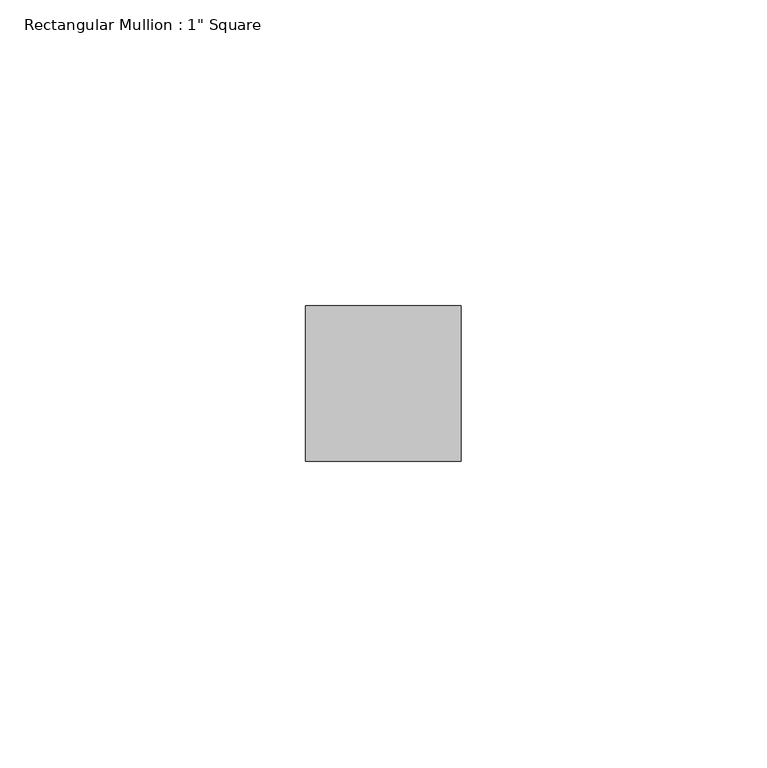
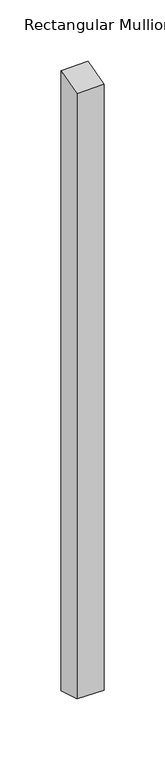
"""IFC4 building model written with IfcOpenShell, lengths in millimetres: member geometry."""

import ifcopenshell
import ifcopenshell.guid

model = None  # the IFC model being written
_history = None  # IfcOwnerHistory: only IFC2X3 demands one
_inside = {}  # id of a spatial element -> (the spatial element, [elements in it])
_under = {}  # id of a project, library or spatial element -> (it, [spatial elements below it])
_declared = {}  # id of a project -> (the project, [libraries it declares])
_typed = {}  # id of a type object -> (the type object, [elements of that type])
_made_of = {}  # id of a material, layer set ... -> (it, [elements and type objects made of it])


def new_model(schema):
    """Start an empty IFC model of exactly this schema.

    Asked for "IFC4X3", IfcOpenShell would pick the latest addendum, in which some entities
    have other attributes; the version numbers below select the first issue.
    IFC2X3 requires an IfcOwnerHistory on every rooted entity: one is made here for all.
    """
    global model, _history
    if schema == "IFC4X3":
        model = ifcopenshell.file(schema_version=(4, 3, 0, 0))
    else:
        model = ifcopenshell.file(schema=schema)
    _inside.clear()
    _under.clear()
    _declared.clear()
    _typed.clear()
    _made_of.clear()
    _history = None
    if model.schema == "IFC2X3":
        org = make("IfcOrganization", Name="unknown")
        user = make(
            "IfcPersonAndOrganization",
            ThePerson=make("IfcPerson", FamilyName="unknown"),
            TheOrganization=org,
        )
        app = make(
            "IfcApplication",
            ApplicationDeveloper=org,
            Version="unknown",
            ApplicationFullName="unknown",
            ApplicationIdentifier="unknown",
        )
        _history = make(
            "IfcOwnerHistory",
            OwningUser=user,
            OwningApplication=app,
            ChangeAction="ADDED",
            CreationDate=0,
        )
    return model


def make(cls, **values):
    """One entity of the class cls with the attributes given. An attribute that is None is left unset."""
    return model.create_entity(
        cls, **{name: value for name, value in values.items() if value is not None}
    )


def rooted(cls, **values):
    """An entity with a GlobalId (a new one), such as an element, a storey or a relation."""
    return make(cls, GlobalId=ifcopenshell.guid.new(), OwnerHistory=_history, **values)


def si_unit(unit_type, name, prefix=None):
    """IfcSIUnit, for example si_unit("LENGTHUNIT", "METRE", prefix="MILLI")."""
    return make("IfcSIUnit", UnitType=unit_type, Prefix=prefix, Name=name)


def assignment(units):
    """IfcUnitAssignment: the units of a project."""
    return None if units is None else make("IfcUnitAssignment", Units=units)


def point(xyz):
    """IfcCartesianPoint."""
    return None if xyz is None else make("IfcCartesianPoint", Coordinates=xyz)


def direction(xyz):
    """IfcDirection."""
    return None if xyz is None else make("IfcDirection", DirectionRatios=xyz)


def frame(location, z_axis=None, x_axis=None):
    """IfcAxis2Placement3D, a coordinate frame: its origin and axes. An axis left out is left unset."""
    return make(
        "IfcAxis2Placement3D",
        Location=point(location),
        Axis=direction(z_axis),
        RefDirection=direction(x_axis),
    )


def origin():
    """The frame at (0, 0, 0) with its axes left unset."""
    return frame((0.0, 0.0, 0.0))


def place(relative_to, where):
    """IfcLocalPlacement: puts the frame where relative to a parent placement (None: the world)."""
    return make(
        "IfcLocalPlacement", PlacementRelTo=relative_to, RelativePlacement=where
    )


def context(
    kind, dimensions, precision=None, world=None, true_north=None, identifier=None
):
    """IfcGeometricRepresentationContext, for example the 3D "Model" context."""
    return make(
        "IfcGeometricRepresentationContext",
        ContextIdentifier=identifier,
        ContextType=kind,
        CoordinateSpaceDimension=dimensions,
        Precision=precision,
        WorldCoordinateSystem=world,
        TrueNorth=true_north,
    )


def project(units=None, contexts=None):
    """IfcProject with its units and contexts."""
    return rooted(
        "IfcProject",
        Name="project",
        RepresentationContexts=contexts,
        UnitsInContext=assignment(units),
    )


def spatial(cls, under=None, at=None, **own):
    """A site, building, storey or space (cls), placed at a placement, below another one or the project."""
    s = rooted(cls, ObjectPlacement=at, **own)
    if under is not None:
        _under.setdefault(under.id(), (under, []))[1].append(s)
    return s


def faces_of(points, faces, orient=None, outer=None):
    """IfcFace entities. A face is a list of loops; a loop is a list of indices into points, from 0.

    orient and outer hold one flag for each loop. By default every Orientation is true, the
    first loop of a face is its IfcFaceOuterBound and the others are IfcFaceBound.
    """
    made = []
    for i, loops in enumerate(faces):
        bounds = []
        for j, loop in enumerate(loops):
            is_outer = j == 0 if outer is None else outer[i][j]
            bounds.append(
                make(
                    "IfcFaceOuterBound" if is_outer else "IfcFaceBound",
                    Bound=make("IfcPolyLoop", Polygon=[points[k] for k in loop]),
                    Orientation=True if orient is None else orient[i][j],
                )
            )
        made.append(make("IfcFace", Bounds=bounds))
    return made


def faceted_brep(points, faces, orient=None, outer=None, voids=None):
    """IfcFacetedBrep: a solid bounded by flat faces; with voids (closed shells), ...WithVoids."""
    shared = [point(p) for p in points]
    hull = make("IfcClosedShell", CfsFaces=faces_of(shared, faces, orient, outer))
    if voids is None:
        return make("IfcFacetedBrep", Outer=hull)
    return make(
        "IfcFacetedBrepWithVoids",
        Outer=hull,
        Voids=[
            make(cls, CfsFaces=faces_of(shared, fs, o, b)) for cls, fs, o, b in voids
        ],
    )


def shape(context_of_items, identifier, shape_type, items):
    """IfcShapeRepresentation: the items that make up one representation, for example the "Body"."""
    return make(
        "IfcShapeRepresentation",
        ContextOfItems=context_of_items,
        RepresentationIdentifier=identifier,
        RepresentationType=shape_type,
        Items=items,
    )


def source(mapping_origin, context_of_items, identifier, shape_type, items):
    """IfcRepresentationMap: a shape defined once, which mapped items show again and again."""
    return make(
        "IfcRepresentationMap",
        MappingOrigin=mapping_origin,
        MappedRepresentation=shape(context_of_items, identifier, shape_type, items),
    )


def transform(
    local_origin,
    x_axis=None,
    y_axis=None,
    z_axis=None,
    scale=None,
    scale2=None,
    scale3=None,
    uniform=True,
):
    """IfcCartesianTransformationOperator3D, or its non-uniform kind. x_axis, y_axis, z_axis: its Axis1, 2, 3."""
    if uniform:
        return make(
            "IfcCartesianTransformationOperator3D",
            Axis1=direction(x_axis),
            Axis2=direction(y_axis),
            LocalOrigin=point(local_origin),
            Scale=scale,
            Axis3=direction(z_axis),
        )
    return make(
        "IfcCartesianTransformationOperator3DnonUniform",
        Axis1=direction(x_axis),
        Axis2=direction(y_axis),
        LocalOrigin=point(local_origin),
        Scale=scale,
        Axis3=direction(z_axis),
        Scale2=scale2,
        Scale3=scale3,
    )


def mapped(mapping_source, mapping_target):
    """IfcMappedItem: shows the shape of a source again, moved by a transform."""
    return make(
        "IfcMappedItem", MappingSource=mapping_source, MappingTarget=mapping_target
    )


def made_of(thing, what):
    """Note that an element or type object is made of a material, layer set ...; save() writes the relation."""
    if what is not None:
        _made_of.setdefault(what.id(), (what, []))[1].append(thing)
    return thing


def element(
    cls,
    number,
    at=None,
    inside=None,
    cuts=None,
    type_object=None,
    material=None,
    context=None,
    identifier="Body",
    shape_type=None,
    held_by="IfcProductDefinitionShape",
    body=None,
    shapes=None,
    **own,
):
    """One element of the class cls, such as IfcWall. Its Tag is "e" and its number.

    at: its placement. inside: the storey or other place that contains it. cuts: it is an
    opening in that element (IfcRelVoidsElement). A single representation is given by context,
    identifier, shape_type and body (its items); several are given by shapes. held_by: the class
    of the entity that holds the representations. save() writes the other relations.
    """
    e = rooted(cls, Tag="e%d" % number, ObjectPlacement=at, **own)
    if body is not None:
        shapes = [shape(context, identifier, shape_type, body)]
    if shapes is not None:
        e.Representation = make(held_by, Representations=shapes)
    if inside is not None:
        _inside.setdefault(inside.id(), (inside, []))[1].append(e)
    if cuts is not None:
        rooted(
            "IfcRelVoidsElement", RelatingBuildingElement=cuts, RelatedOpeningElement=e
        )
    if type_object is not None:
        _typed.setdefault(type_object.id(), (type_object, []))[1].append(e)
    return made_of(e, material)


def aggregate(whole, parts):
    """IfcRelAggregates: a whole, such as a stair, and the parts it consists of."""
    return rooted("IfcRelAggregates", RelatingObject=whole, RelatedObjects=parts)


def save(model, path):
    """Write the relations noted so far, then the file.

    IfcRelAggregates (storeys below a building ...), IfcRelContainedInSpatialStructure (elements
    in a storey), IfcRelDefinesByType, IfcRelAssociatesMaterial and IfcRelDeclares: one each for
    every whole, place, type object, material and project.
    """
    for whole, parts in _under.values():
        aggregate(whole, parts)
    for where, things in _inside.values():
        rooted(
            "IfcRelContainedInSpatialStructure",
            RelatedElements=things,
            RelatingStructure=where,
        )
    for kind, things in _typed.values():
        rooted("IfcRelDefinesByType", RelatedObjects=things, RelatingType=kind)
    for what, things in _made_of.values():
        rooted("IfcRelAssociatesMaterial", RelatedObjects=things, RelatingMaterial=what)
    for by, libraries in _declared.values():
        rooted("IfcRelDeclares", RelatingContext=by, RelatedDefinitions=libraries)
    model.write(path)


def member_4c50ae0e(model_context):
    return source(origin(), model_context, "Body", "Brep", [
        faceted_brep([(-25.4, 12.7, 3.284802), (0.0, 12.7, 3.7025532), (0.0, 12.7, -613.3025532), (-25.4, 12.7, -612.884802), (-25.4, -12.7, -4.1203045), (-25.4, -12.7, -605.4796955), (0.0, -12.7, -3.7025532), (0.0, -12.7, -605.8974468)], [[[0, 1, 2, 3]], [[4, 0, 3, 5]], [[6, 4, 5, 7]], [[1, 6, 7, 2]], [[1, 0, 4, 6]], [[2, 7, 5, 3]]]),
    ])


if __name__ == "__main__":
    model = new_model("IFC4")
    model_context = context("Model", 3, world=origin())
    ifc_project = project(units=[si_unit("LENGTHUNIT", "METRE", prefix="MILLI")], contexts=[model_context])
    site = spatial("IfcSite", under=ifc_project)
    building = spatial("IfcBuilding", under=site)
    placement = place(None, origin())
    member_shape = member_4c50ae0e(model_context)
    element("IfcMember", 1, ObjectType="Rectangular Mullion : 1\" Square", at=placement, inside=building, context=model_context, shape_type="MappedRepresentation", body=[
        mapped(member_shape, transform((0.0, 0.0, 0.0), x_axis=(1.0, 0.0, 0.0), y_axis=(0.0, 1.0, 0.0), z_axis=(0.0, 0.0, 1.0))),
    ])
    save(model, "model.ifc")
